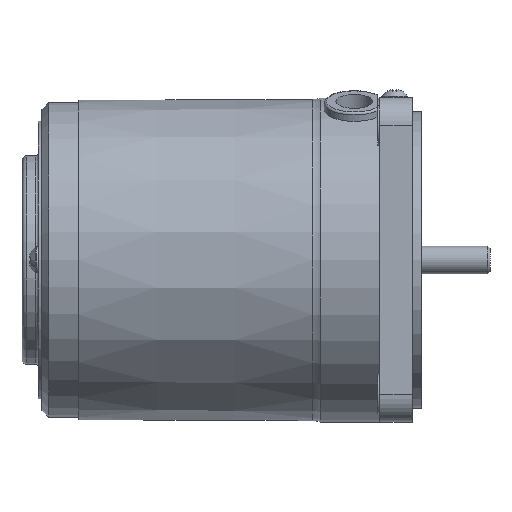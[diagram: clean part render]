
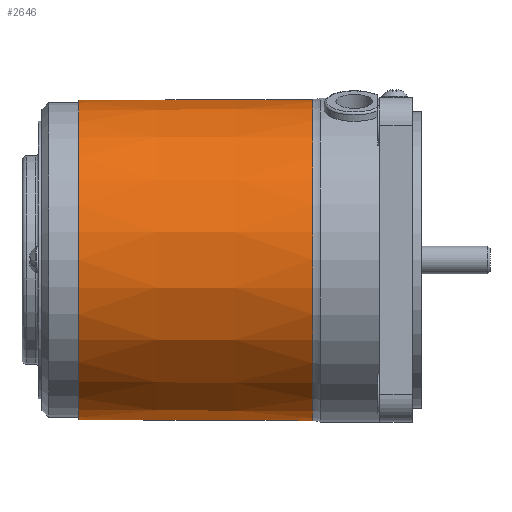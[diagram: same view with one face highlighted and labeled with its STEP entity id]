
A CAD part, top view. The second image highlights one B-rep face of the part: STEP entity #2646.
In plain terms, the highlighted conical face has half-angle 0.227 degrees and reference radius 34.6 mm.
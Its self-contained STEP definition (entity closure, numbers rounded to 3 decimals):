
#13=CONICAL_SURFACE('',#2857,34.6,0.227);
#138=FACE_BOUND('',#537,.T.);
#231=CIRCLE('',#2856,34.7);
#232=CIRCLE('',#2858,34.5);
#356=FACE_OUTER_BOUND('',#536,.T.);
#536=EDGE_LOOP('',(#1901));
#537=EDGE_LOOP('',(#1902));
#1155=VERTEX_POINT('',#4191);
#1156=VERTEX_POINT('',#4194);
#1438=EDGE_CURVE('',#1155,#1155,#231,.T.);
#1439=EDGE_CURVE('',#1156,#1156,#232,.T.);
#1901=ORIENTED_EDGE('',*,*,#1438,.F.);
#1902=ORIENTED_EDGE('',*,*,#1439,.T.);
#2646=ADVANCED_FACE('',(#356,#138),#13,.T.);
#2856=AXIS2_PLACEMENT_3D('',#4192,#3286,#3287);
#2857=AXIS2_PLACEMENT_3D('',#4193,#3288,#3289);
#2858=AXIS2_PLACEMENT_3D('',#4195,#3290,#3291);
#3286=DIRECTION('center_axis',(1.,0.,0.));
#3287=DIRECTION('ref_axis',(0.,1.,0.));
#3288=DIRECTION('center_axis',(1.,0.,0.));
#3289=DIRECTION('ref_axis',(0.,1.,0.));
#3290=DIRECTION('center_axis',(1.,0.,0.));
#3291=DIRECTION('ref_axis',(0.,1.,0.));
#4191=CARTESIAN_POINT('',(58.46,34.7,0.));
#4192=CARTESIAN_POINT('Origin',(58.46,0.,0.));
#4193=CARTESIAN_POINT('Origin',(33.23,0.,
0.));
#4194=CARTESIAN_POINT('',(8.,34.5,0.));
#4195=CARTESIAN_POINT('Origin',(8.,0.,
0.));
